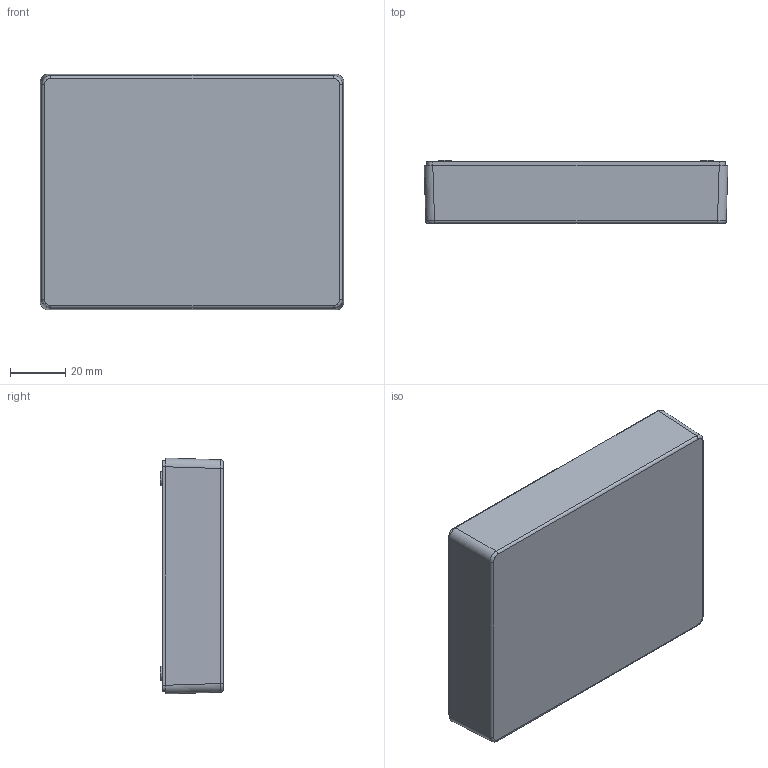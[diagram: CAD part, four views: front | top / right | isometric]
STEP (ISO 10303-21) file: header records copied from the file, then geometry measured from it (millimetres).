
FILE_DESCRIPTION (( 'STEP AP214' ), '1' );
FILE_NAME ('Cuerpo PP96.STEP', '2017-06-29T17:12:00', ( 'aaa' ), ( '' ), 'SwSTEP 2.0', 'SolidWorks 2013', '' );
FILE_SCHEMA (( 'AUTOMOTIVE_DESIGN' ));
Length unit declared in the file: millimetre
Products named in the file (1): Cuerpo PP96
Bounding box: 109.62 x 22.8 x 85.12 mm (x, y, z)
Volume: 48217.6 mm3; surface area: 36094.1 mm2
Topology: 1 solids, 1 shells, 92 faces, 196 edges, 128 vertices
Faces by surface type: cylinder 52, plane 36, bspline 4
Entity records: 2646 total; most frequent: CARTESIAN_POINT 569, DIRECTION 458, ORIENTED_EDGE 392, EDGE_CURVE 196, AXIS2_PLACEMENT_3D 185, VERTEX_POINT 128, EDGE_LOOP 114, CIRCLE 96
